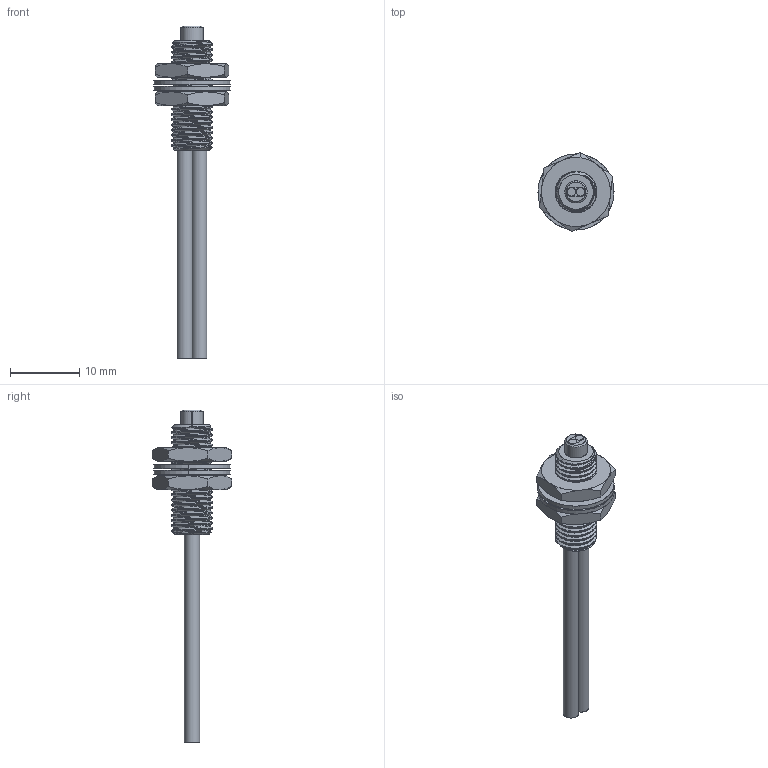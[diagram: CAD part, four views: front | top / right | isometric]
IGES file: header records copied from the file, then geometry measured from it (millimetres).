
Start section: SolidWorks IGES file using analytic representation for surfaces
Bounding box: 11 x 11.47 x 48 mm (x, y, z)
Surface area: 1624.3 mm2 (no closed solid volume)
Topology: 0 solids, 0 shells, 215 faces, 2978 edges, 2978 vertices
Faces by surface type: revolution 143, bspline 72
